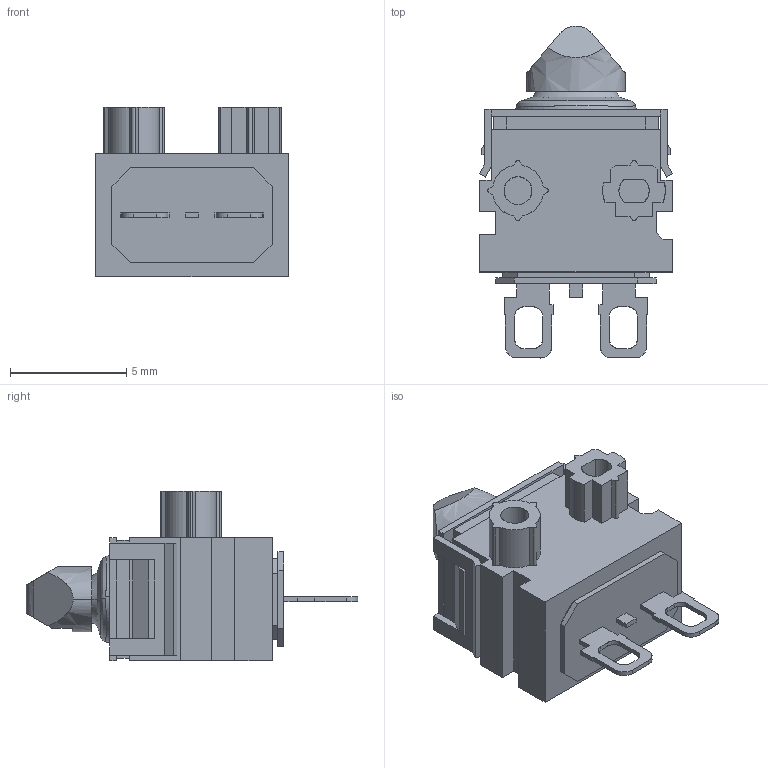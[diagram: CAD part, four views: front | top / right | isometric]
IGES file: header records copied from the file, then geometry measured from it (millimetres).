
Start section: OSMC1.0    IGES FILE using analytic representation for surfaces
Global section: file name: C:\OMRON\Data\D2EW_B02H.igs; native system: SolidWorks 2001Plus by SolidWorks Corporation; preprocessor: Version 5.3; author: sakane; date: 230217.165307; units: millimetre
Bounding box: 8.3 x 14.3 x 7.3 mm (x, y, z)
Surface area: 514.2 mm2 (no closed solid volume)
Topology: 0 solids, 0 shells, 215 faces, 1656 edges, 1656 vertices
Faces by surface type: bspline 181, revolution 34
